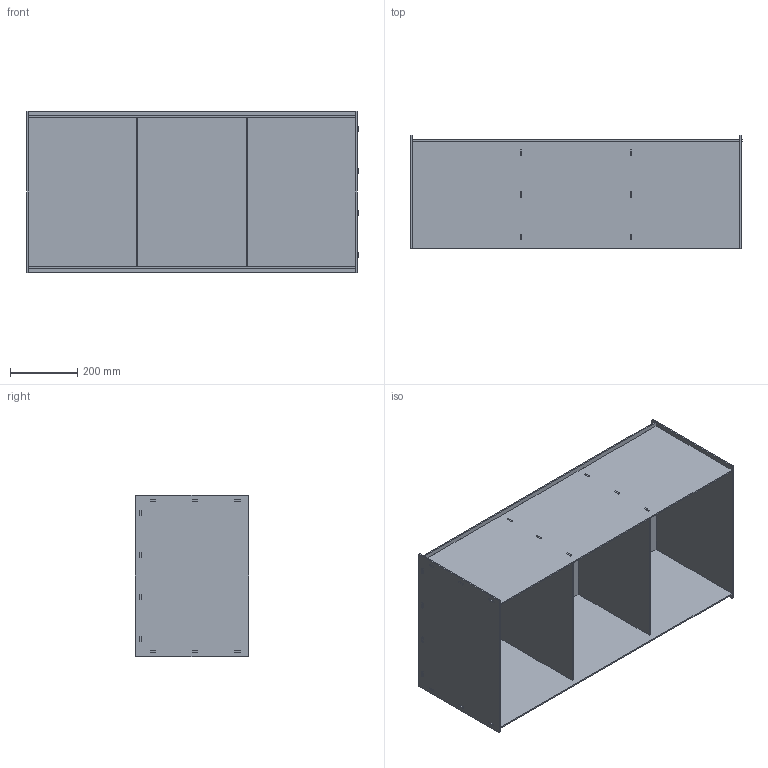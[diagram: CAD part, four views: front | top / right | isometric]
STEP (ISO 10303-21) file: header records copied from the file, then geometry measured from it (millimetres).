
FILE_DESCRIPTION(/* description */ (''),/* implementation_level */ '2;1');
FILE_NAME(/* name */ 'FRAMA_Rivet-Case-3D',/* time_stamp */ '2025-10-21T14:29:15+02:00',/* author */ (''),/* organization */ (''),/* preprocessor_version */ 'ST-DEVELOPER v16.5',/* originating_system */ 'Rhino 7.38',/* authorisation */ '');
FILE_SCHEMA (('CONFIG_CONTROL_DESIGN'));
Length unit declared in the file: millimetre
Products named in the file (1): Document
Bounding box: 987 x 338 x 481 mm (x, y, z)
Volume: 6748806.7 mm3; surface area: 3443514.3 mm2
Topology: 7 solids, 7 shells, 778 faces, 2292 edges, 1528 vertices
Faces by surface type: plane 666, cylinder 112
Entity records: 22984 total; most frequent: CARTESIAN_POINT 7532, ORIENTED_EDGE 4584, EDGE_CURVE 2292, B_SPLINE_CURVE_WITH_KNOTS 2068, VERTEX_POINT 1528, EDGE_LOOP 882, DIRECTION 782, AXIS2_PLACEMENT_3D 780
